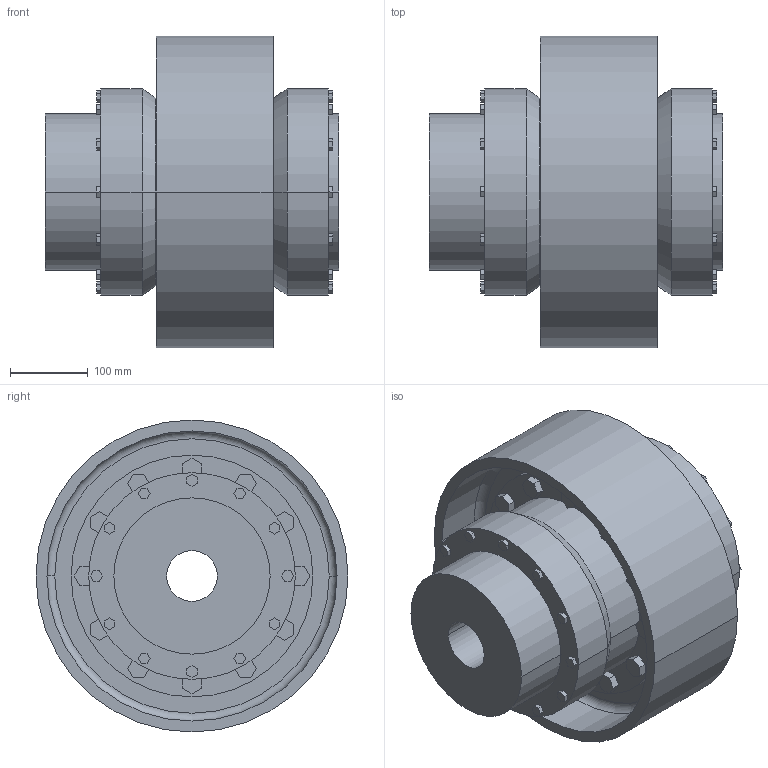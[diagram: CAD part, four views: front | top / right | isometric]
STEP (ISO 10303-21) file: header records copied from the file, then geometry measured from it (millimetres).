
FILE_DESCRIPTION((''),'2;1');
FILE_NAME('A19734800-0_ASM','2019-05-23T',('AB_Roschiwal'),('RENK AG'),'PRO/ENGINEER BY PARAMETRIC TECHNOLOGY CORPORATION, 2015440','PRO/ENGINEER BY PARAMETRIC TECHNOLOGY CORPORATION, 2015440','');
FILE_SCHEMA(('CONFIG_CONTROL_DESIGN'));
Length unit declared in the file: millimetre
Products named in the file (4): SBKD125_GEHAEUSE; SBKD125_NABE; SBKD125_BREMSSCHEIBE; A19734800-0_ASM
Assembly tree (4 placements, depth 2):
  A19734800-0_ASM
    SBKD125_GEHAEUSE
    SBKD125_NABE  x2
    SBKD125_BREMSSCHEIBE
Bounding box: 376 x 400 x 400 mm (x, y, z)
Volume: 17168402.4 mm3; surface area: 1553783.8 mm2
Topology: 4 solids, 4 shells, 474 faces, 1164 edges, 772 vertices
Faces by surface type: plane 370, cylinder 96, cone 4, torus 4
Entity records: 13708 total; most frequent: CARTESIAN_POINT 2366, ORIENTED_EDGE 2280, DIRECTION 2264, EDGE_CURVE 1140, VECTOR 956, LINE 956, VERTEX_POINT 756, AXIS2_PLACEMENT_3D 654
